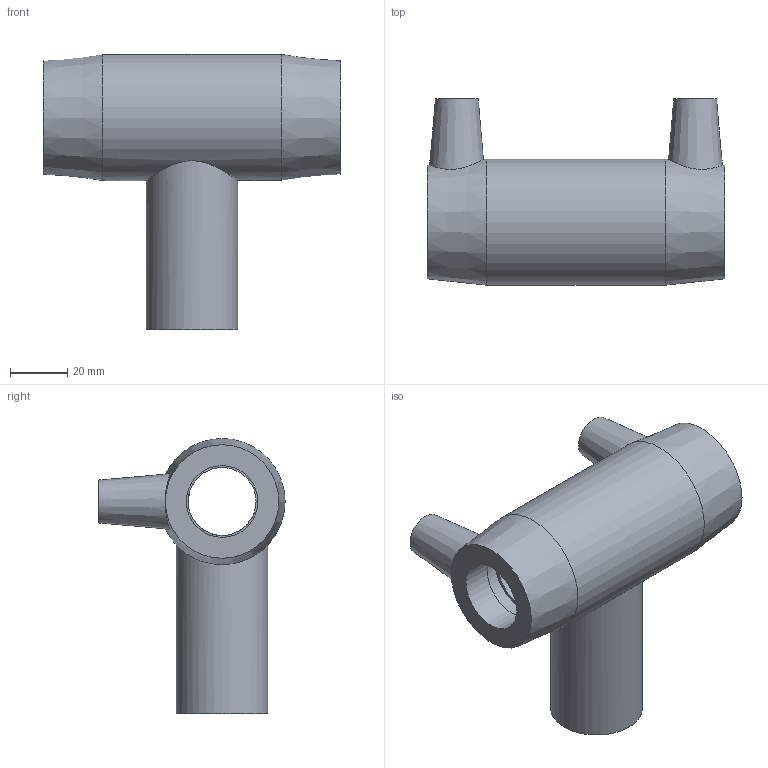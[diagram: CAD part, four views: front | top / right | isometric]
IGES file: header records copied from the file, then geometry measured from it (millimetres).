
Global section: file name: 491404025032.ipt; native system: Autodesk Inventor 2015; preprocessor: unknown; author: KIM; date: 20190909.112816; units: millimetre
Bounding box: 104 x 65 x 96 mm (x, y, z)
Volume: 120131.6 mm3; surface area: 37145 mm2
Topology: 1 solids, 1 shells, 33 faces, 78 edges, 55 vertices
Faces by surface type: plane 15, revolution 10, cylinder 4, cone 4
Full cylindrical faces by diameter (mm): 4 x2, 32 x1, 44 x1
